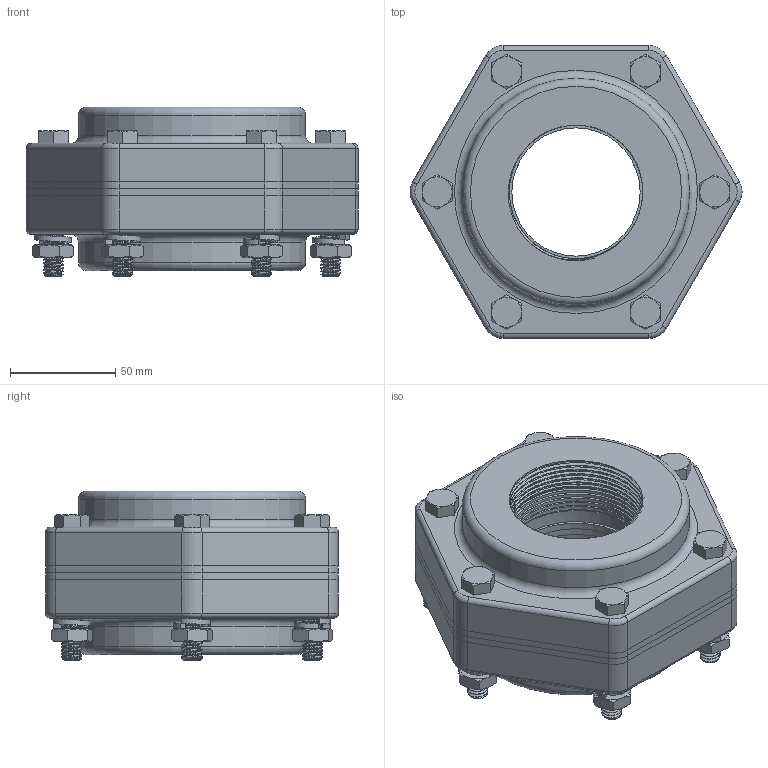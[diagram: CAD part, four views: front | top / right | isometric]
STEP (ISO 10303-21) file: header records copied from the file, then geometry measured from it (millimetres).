
FILE_DESCRIPTION(/* description */ ('Alibre Inc.'),/* implementation_level */ '2;1');
FILE_NAME(/* name */ 'export0',/* time_stamp */ '2017-09-11T10:27:30-04:00',/* author */ (''),/* organization */ (''),/* preprocessor_version */ 'ST-DEVELOPER v14',/* originating_system */ 'Alibre',/* authorisation */ '');
FILE_SCHEMA (('CONFIG_CONTROL_DESIGN'));
Length unit declared in the file: inch
Products named in the file (6): ID_1; ID_2; ID_3; ID_4
Bounding box: 157.78 x 139.19 x 80.78 mm (x, y, z)
Volume: 811300.9 mm3; surface area: 192463.9 mm2
Topology: 22 solids, 22 shells, 776 faces, 1984 edges, 1260 vertices
Faces by surface type: cylinder 366, cone 196, plane 150, bspline 48, torus 16
Full cylindrical faces by diameter (mm): 7.874 x12, 10.16 x12, 60.96 x2, 63.5 x24, 107.95 x2
Entity records: 30909 total; most frequent: CARTESIAN_POINT 26081, ORIENTED_EDGE 830, DIRECTION 729, EDGE_CURVE 415, AXIS2_PLACEMENT_3D 323, VERTEX_POINT 274, EDGE_LOOP 219, FACE_BOUND 219
